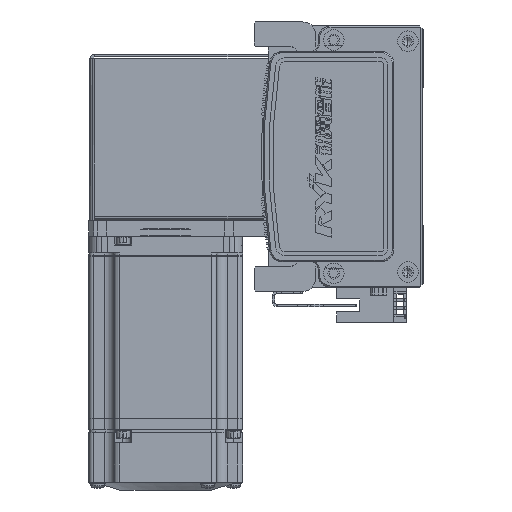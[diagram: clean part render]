
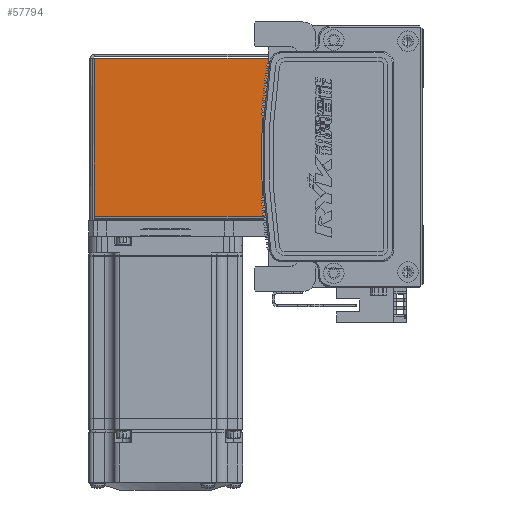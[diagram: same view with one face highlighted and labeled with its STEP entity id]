
A CAD part, left-side view. The second image highlights one B-rep face of the part: STEP entity #57794.
In plain terms, the highlighted planar face has unit normal (-1, 0, 0) as drawn and (0, 0, 1) by its records, which use the part's own axes.
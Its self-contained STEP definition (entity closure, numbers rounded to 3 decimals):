
#44 = VECTOR ( 'NONE', #24839, 1000. ) ;
#73 = VECTOR ( 'NONE', #26347, 1000. ) ;
#1573 = CARTESIAN_POINT ( 'NONE',  ( 30.763, 68.5, 35. ) ) ;
#2313 = EDGE_CURVE ( 'NONE', #34309, #29607, #42505, .T. ) ;
#2829 = ORIENTED_EDGE ( 'NONE', *, *, #10037, .F. ) ;
#4868 = DIRECTION ( 'NONE',  ( -1., 0., 0. ) ) ;
#8762 = LINE ( 'NONE', #10491, #20277 ) ;
#10037 = EDGE_CURVE ( 'NONE', #34309, #36176, #71934, .T. ) ;
#10491 = CARTESIAN_POINT ( 'NONE',  ( 0., 68.5, 35. ) ) ;
#11824 = ORIENTED_EDGE ( 'NONE', *, *, #2313, .T. ) ;
#12004 = DIRECTION ( 'NONE',  ( -1., 0., 0. ) ) ;
#12458 = CARTESIAN_POINT ( 'NONE',  ( -30.793, 68.5, 35. ) ) ;
#16934 = LINE ( 'NONE', #48394, #73 ) ;
#19342 = CARTESIAN_POINT ( 'NONE',  ( -30.793, 0.737, 35. ) ) ;
#19870 = EDGE_LOOP ( 'NONE', ( #11824, #47139, #23401, #2829 ) ) ;
#20277 = VECTOR ( 'NONE', #67354, 1000. ) ;
#23401 = ORIENTED_EDGE ( 'NONE', *, *, #39276, .F. ) ;
#24839 = DIRECTION ( 'NONE',  ( 0., 1., 0. ) ) ;
#26347 = DIRECTION ( 'NONE',  ( 0., 1., 0. ) ) ;
#29607 = VERTEX_POINT ( 'NONE', #1573 ) ;
#34023 = CARTESIAN_POINT ( 'NONE',  ( 30.763, 0.737, 35. ) ) ;
#34309 = VERTEX_POINT ( 'NONE', #34023 ) ;
#35970 = FACE_OUTER_BOUND ( 'NONE', #19870, .T. ) ;
#36176 = VERTEX_POINT ( 'NONE', #19342 ) ;
#37009 = AXIS2_PLACEMENT_3D ( 'NONE', #43695, #37772, #4868 ) ;
#37772 = DIRECTION ( 'NONE',  ( 0., 0., -1. ) ) ;
#39276 = EDGE_CURVE ( 'NONE', #36176, #56521, #16934, .T. ) ;
#42505 = LINE ( 'NONE', #46405, #44 ) ;
#43695 = CARTESIAN_POINT ( 'NONE',  ( 0., 0., 35. ) ) ;
#46405 = CARTESIAN_POINT ( 'NONE',  ( 30.763, 0.737, 35. ) ) ;
#47139 = ORIENTED_EDGE ( 'NONE', *, *, #63330, .T. ) ;
#48394 = CARTESIAN_POINT ( 'NONE',  ( -30.793, 0., 35. ) ) ;
#52037 = CARTESIAN_POINT ( 'NONE',  ( -32.5, 0.737, 35. ) ) ;
#56521 = VERTEX_POINT ( 'NONE', #12458 ) ;
#57794 = ADVANCED_FACE ( 'NONE', ( #35970 ), #66454, .F. ) ;
#63330 = EDGE_CURVE ( 'NONE', #29607, #56521, #8762, .T. ) ;
#66454 = PLANE ( 'NONE',  #37009 ) ;
#66546 = VECTOR ( 'NONE', #12004, 1000. ) ;
#67354 = DIRECTION ( 'NONE',  ( -1., 0., 0. ) ) ;
#71934 = LINE ( 'NONE', #52037, #66546 ) ;
